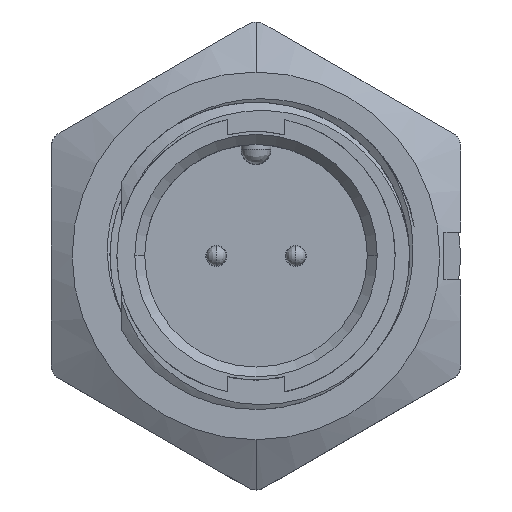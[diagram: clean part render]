
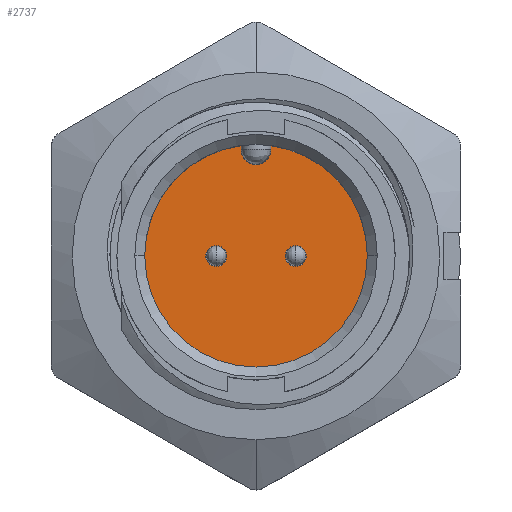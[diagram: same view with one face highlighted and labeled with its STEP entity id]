
A CAD part, top view. The second image highlights one B-rep face of the part: STEP entity #2737.
In plain terms, the highlighted planar face has unit normal (0, 0, 1).
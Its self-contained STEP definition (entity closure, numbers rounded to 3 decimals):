
#62 = CARTESIAN_POINT ( 'NONE',  ( 1.475, 0., -9. ) ) ;
#74 = EDGE_CURVE ( 'NONE', #11658, #11600, #3465, .T. ) ;
#240 = EDGE_CURVE ( 'NONE', #9343, #11552, #4407, .T. ) ;
#558 = DIRECTION ( 'NONE',  ( 1., 0., 0. ) ) ;
#635 = CARTESIAN_POINT ( 'NONE',  ( -2., 0., -9. ) ) ;
#688 = FACE_OUTER_BOUND ( 'NONE', #4779, .T. ) ;
#692 = DIRECTION ( 'NONE',  ( 1., 0., 0. ) ) ;
#709 = DIRECTION ( 'NONE',  ( 0., 0., -1. ) ) ;
#942 = AXIS2_PLACEMENT_3D ( 'NONE', #6750, #4128, #9627 ) ;
#969 = PLANE ( 'NONE',  #9714 ) ;
#1340 = VECTOR ( 'NONE', #8720, 1000. ) ;
#1460 = ORIENTED_EDGE ( 'NONE', *, *, #6093, .T. ) ;
#1503 = ORIENTED_EDGE ( 'NONE', *, *, #10729, .T. ) ;
#1521 = AXIS2_PLACEMENT_3D ( 'NONE', #4233, #9673, #1753 ) ;
#1523 = LINE ( 'NONE', #5143, #1340 ) ;
#1641 = DIRECTION ( 'NONE',  ( 0., 0., 1. ) ) ;
#1753 = DIRECTION ( 'NONE',  ( 1., 0., 0. ) ) ;
#1975 = LINE ( 'NONE', #3727, #2112 ) ;
#2112 = VECTOR ( 'NONE', #9106, 1000. ) ;
#2153 = AXIS2_PLACEMENT_3D ( 'NONE', #2187, #11154, #10264 ) ;
#2187 = CARTESIAN_POINT ( 'NONE',  ( 2., 0., -9. ) ) ;
#2286 = VERTEX_POINT ( 'NONE', #11355 ) ;
#2482 = AXIS2_PLACEMENT_3D ( 'NONE', #10854, #5509, #5396 ) ;
#2506 = ORIENTED_EDGE ( 'NONE', *, *, #4485, .T. ) ;
#2737 = ADVANCED_FACE ( 'NONE', ( #5482, #9052, #688 ), #969, .T. ) ;
#3244 = AXIS2_PLACEMENT_3D ( 'NONE', #6991, #709, #10578 ) ;
#3304 = ORIENTED_EDGE ( 'NONE', *, *, #240, .T. ) ;
#3418 = CARTESIAN_POINT ( 'NONE',  ( 0., -0.028, -9. ) ) ;
#3465 = CIRCLE ( 'NONE', #2153, 0.525 ) ;
#3727 = CARTESIAN_POINT ( 'NONE',  ( 0.75, -0.028, -9. ) ) ;
#3962 = CIRCLE ( 'NONE', #1521, 0.75 ) ;
#4067 = DIRECTION ( 'NONE',  ( 0., 0., -1. ) ) ;
#4128 = DIRECTION ( 'NONE',  ( 0., 0., -1. ) ) ;
#4185 = DIRECTION ( 'NONE',  ( 1., 0., 0. ) ) ;
#4232 = DIRECTION ( 'NONE',  ( 0., 0., 1. ) ) ;
#4233 = CARTESIAN_POINT ( 'NONE',  ( 0., 5.35, -9. ) ) ;
#4274 = VERTEX_POINT ( 'NONE', #6068 ) ;
#4407 = CIRCLE ( 'NONE', #7428, 0.525 ) ;
#4425 = CARTESIAN_POINT ( 'NONE',  ( 0.75, 5.55, -9. ) ) ;
#4478 = ORIENTED_EDGE ( 'NONE', *, *, #4919, .T. ) ;
#4485 = EDGE_CURVE ( 'NONE', #4274, #9480, #7195, .T. ) ;
#4676 = ORIENTED_EDGE ( 'NONE', *, *, #9903, .T. ) ;
#4688 = CARTESIAN_POINT ( 'NONE',  ( -5.6, 0., -9. ) ) ;
#4779 = EDGE_LOOP ( 'NONE', ( #8925, #1460, #4676, #2506, #9403, #1503 ) ) ;
#4919 = EDGE_CURVE ( 'NONE', #11600, #11658, #10773, .T. ) ;
#5143 = CARTESIAN_POINT ( 'NONE',  ( -0.75, -0.028, -9. ) ) ;
#5148 = ORIENTED_EDGE ( 'NONE', *, *, #7125, .T. ) ;
#5239 = EDGE_LOOP ( 'NONE', ( #3304, #5148 ) ) ;
#5262 = ORIENTED_EDGE ( 'NONE', *, *, #74, .T. ) ;
#5396 = DIRECTION ( 'NONE',  ( 1., 0., 0. ) ) ;
#5482 = FACE_BOUND ( 'NONE', #6555, .T. ) ;
#5509 = DIRECTION ( 'NONE',  ( 0., 0., 1. ) ) ;
#5629 = EDGE_CURVE ( 'NONE', #7320, #11414, #1975, .T. ) ;
#5785 = CARTESIAN_POINT ( 'NONE',  ( 0., 0., -9. ) ) ;
#5879 = CARTESIAN_POINT ( 'NONE',  ( 0., 0., -9. ) ) ;
#6061 = CIRCLE ( 'NONE', #942, 0.525 ) ;
#6068 = CARTESIAN_POINT ( 'NONE',  ( -0.75, 5.55, -9. ) ) ;
#6093 = EDGE_CURVE ( 'NONE', #11414, #10846, #3962, .T. ) ;
#6438 = AXIS2_PLACEMENT_3D ( 'NONE', #5879, #9231, #10286 ) ;
#6555 = EDGE_LOOP ( 'NONE', ( #5262, #4478 ) ) ;
#6682 = CARTESIAN_POINT ( 'NONE',  ( -0.75, 5.35, -9. ) ) ;
#6750 = CARTESIAN_POINT ( 'NONE',  ( -2., 0., -9. ) ) ;
#6781 = CARTESIAN_POINT ( 'NONE',  ( 0.75, 5.35, -9. ) ) ;
#6991 = CARTESIAN_POINT ( 'NONE',  ( 2., 0., -9. ) ) ;
#7039 = CARTESIAN_POINT ( 'NONE',  ( -1.475, 0., -9. ) ) ;
#7125 = EDGE_CURVE ( 'NONE', #11552, #9343, #6061, .T. ) ;
#7195 = CIRCLE ( 'NONE', #11332, 5.6 ) ;
#7320 = VERTEX_POINT ( 'NONE', #4425 ) ;
#7428 = AXIS2_PLACEMENT_3D ( 'NONE', #635, #4067, #692 ) ;
#8720 = DIRECTION ( 'NONE',  ( 0., 1., 0. ) ) ;
#8880 = CARTESIAN_POINT ( 'NONE',  ( 2.525, 0., -9. ) ) ;
#8925 = ORIENTED_EDGE ( 'NONE', *, *, #5629, .T. ) ;
#8999 = CARTESIAN_POINT ( 'NONE',  ( -2.525, 0., -9. ) ) ;
#9052 = FACE_BOUND ( 'NONE', #5239, .T. ) ;
#9106 = DIRECTION ( 'NONE',  ( 0., -1., 0. ) ) ;
#9231 = DIRECTION ( 'NONE',  ( 0., 0., 1. ) ) ;
#9343 = VERTEX_POINT ( 'NONE', #7039 ) ;
#9403 = ORIENTED_EDGE ( 'NONE', *, *, #10457, .T. ) ;
#9454 = CIRCLE ( 'NONE', #6438, 5.6 ) ;
#9480 = VERTEX_POINT ( 'NONE', #4688 ) ;
#9627 = DIRECTION ( 'NONE',  ( 1., 0., 0. ) ) ;
#9673 = DIRECTION ( 'NONE',  ( 0., 0., -1. ) ) ;
#9714 = AXIS2_PLACEMENT_3D ( 'NONE', #3418, #1641, #4185 ) ;
#9903 = EDGE_CURVE ( 'NONE', #10846, #4274, #1523, .T. ) ;
#10264 = DIRECTION ( 'NONE',  ( 1., 0., 0. ) ) ;
#10286 = DIRECTION ( 'NONE',  ( 1., 0., 0. ) ) ;
#10457 = EDGE_CURVE ( 'NONE', #9480, #2286, #9454, .T. ) ;
#10578 = DIRECTION ( 'NONE',  ( 1., 0., 0. ) ) ;
#10729 = EDGE_CURVE ( 'NONE', #2286, #7320, #10765, .T. ) ;
#10765 = CIRCLE ( 'NONE', #2482, 5.6 ) ;
#10773 = CIRCLE ( 'NONE', #3244, 0.525 ) ;
#10846 = VERTEX_POINT ( 'NONE', #6682 ) ;
#10854 = CARTESIAN_POINT ( 'NONE',  ( 0., 0., -9. ) ) ;
#11154 = DIRECTION ( 'NONE',  ( 0., 0., -1. ) ) ;
#11332 = AXIS2_PLACEMENT_3D ( 'NONE', #5785, #4232, #558 ) ;
#11355 = CARTESIAN_POINT ( 'NONE',  ( 5.6, 0., -9. ) ) ;
#11414 = VERTEX_POINT ( 'NONE', #6781 ) ;
#11552 = VERTEX_POINT ( 'NONE', #8999 ) ;
#11600 = VERTEX_POINT ( 'NONE', #62 ) ;
#11658 = VERTEX_POINT ( 'NONE', #8880 ) ;
